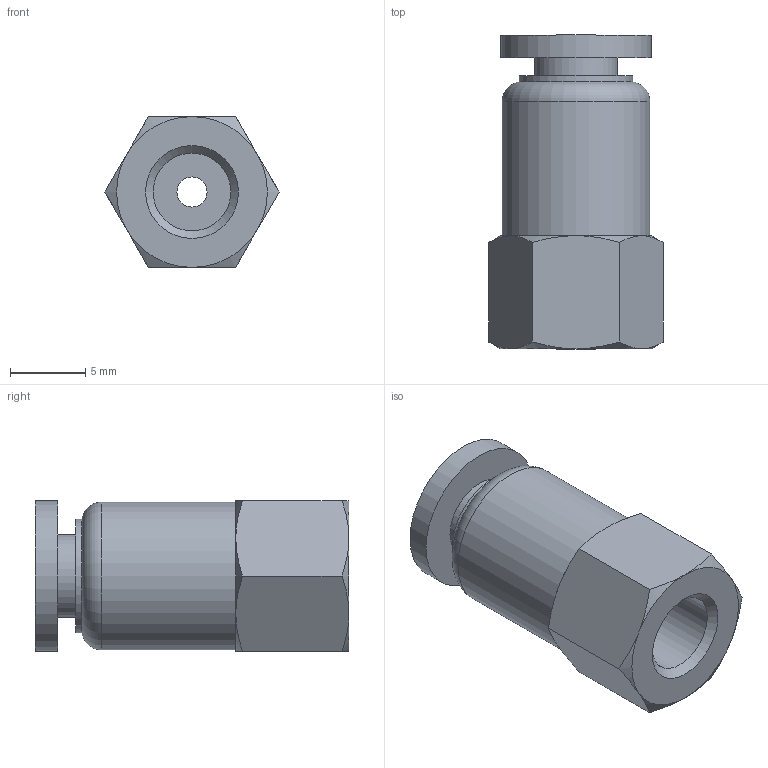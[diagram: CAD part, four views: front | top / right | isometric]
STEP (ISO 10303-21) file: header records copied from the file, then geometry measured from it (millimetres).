
FILE_DESCRIPTION(/* description */ (''),/* implementation_level */ '2;1');
FILE_NAME(/* name */ 'S:\_Tecnico\ArchivioUT\_Disegni3D ingombri\DISEGNI 3D per ingombri\RP\RP 52\RP52M604.stp',/* time_stamp */ '2019-07-29T16:38:25+02:00',/* author */ ('ufficiotecnico3'),/* organization */ (''),/* preprocessor_version */ 'ST-DEVELOPER v18',/* originating_system */ 'Autodesk Inventor 2020',/* authorisation */ '');
FILE_SCHEMA (('AUTOMOTIVE_DESIGN { 1 0 10303 214 3 1 1 }'));
Length unit declared in the file: millimetre
Products named in the file (1): RP52M604
Bounding box: 11.55 x 20.8 x 10 mm (x, y, z)
Volume: 1271.1 mm3; surface area: 1169.7 mm2
Topology: 1 solids, 1 shells, 35 faces, 80 edges, 52 vertices
Faces by surface type: cone 14, plane 13, cylinder 7, torus 1
Full cylindrical faces by diameter (mm): 2 x1, 4 x1, 5.153 x1, 5.5 x1, 7.5 x1, 9.8 x1, 10 x1
Entity records: 1024 total; most frequent: CARTESIAN_POINT 216, DIRECTION 169, ORIENTED_EDGE 160, EDGE_CURVE 80, AXIS2_PLACEMENT_3D 77, VERTEX_POINT 52, EDGE_LOOP 42, CIRCLE 41
